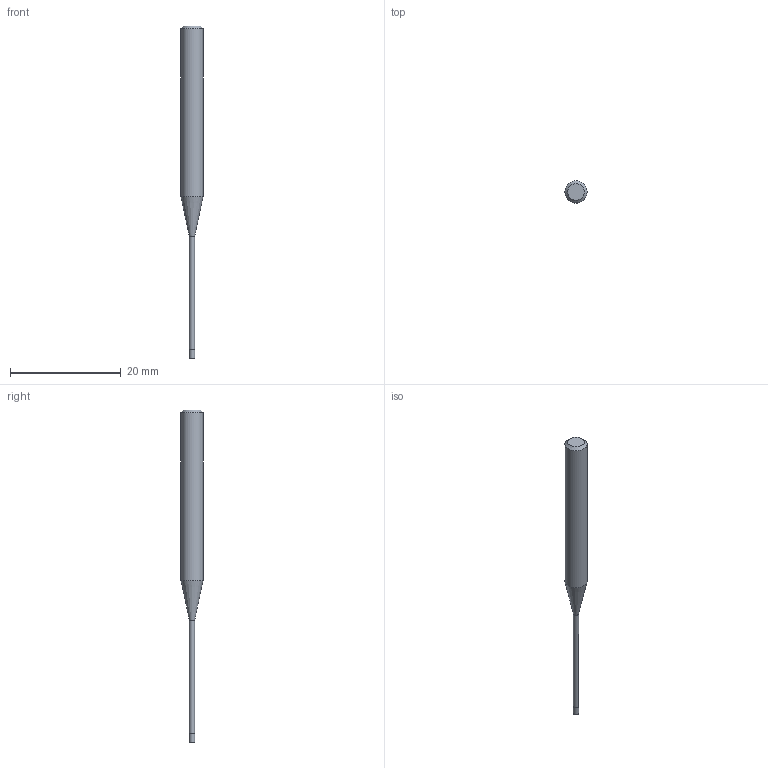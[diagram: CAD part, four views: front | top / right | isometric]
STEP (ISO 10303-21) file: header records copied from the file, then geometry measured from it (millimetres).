
FILE_DESCRIPTION((''),'2;1');
FILE_NAME('C:\Users\nsx150\AppData\Local\Temp\Mastercam 2021\17T8Q8S9EB\TEMP.step','2021-04-21T14:26:04',(''),(''),'STEP Write','Mastercam 2021 ... CNC Software, Inc.','');
FILE_SCHEMA(('AUTOMOTIVE_DESIGN'));
Length unit declared in the file: millimetre
Products named in the file (1): None
Bounding box: 4 x 4 x 60 mm (x, y, z)
Volume: 440.5 mm3; surface area: 521.1 mm2
Topology: 2 solids, 2 shells, 9 faces, 12 edges, 7 vertices
Faces by surface type: plane 4, cylinder 3, cone 2
Full cylindrical faces by diameter (mm): 0.95 x1, 1 x1, 4 x1
Entity records: 211 total; most frequent: DIRECTION 36, CARTESIAN_POINT 25, AXIS2_PLACEMENT_3D 18, ORIENTED_EDGE 14, EDGE_LOOP 14, STYLED_ITEM 12, ADVANCED_FACE 9, FACE_BOUND 8
